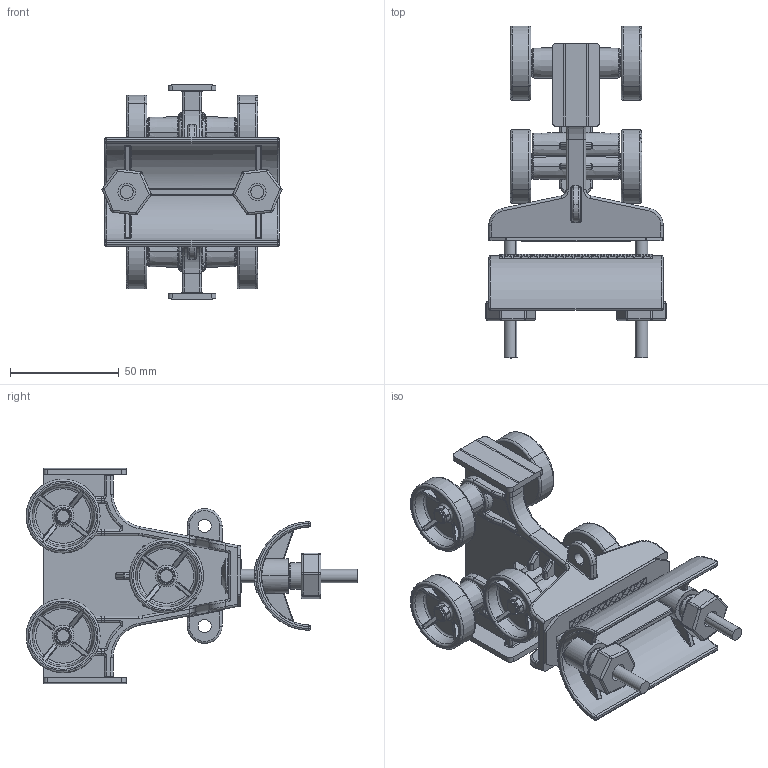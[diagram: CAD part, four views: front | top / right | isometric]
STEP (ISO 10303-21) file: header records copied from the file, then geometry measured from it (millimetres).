
FILE_DESCRIPTION (( 'STEP AP203' ), '1' );
FILE_NAME ('萇擢苤陬.STEP', '2022-02-10T02:41:10', ( '' ), ( '' ), 'SwSTEP 2.0', 'SolidWorks 2017', '' );
FILE_SCHEMA (( 'CONFIG_CONTROL_DESIGN' ));
Length unit declared in the file: millimetre
Products named in the file (8): 电缆小车下支撑(网纹); 萇擢苤陬陬謫粣; 萇擢苤陬; 萇擢苤陬陬謫; 萇擢苤陬滅賑菜; 萇擢苤陬翋极; cup head square neck bolts grade c gb_GB_FASTENER_BOLT_CHSNBLH M6X60-N; 电缆小车塑料螺母
Assembly tree (16 placements, depth 2):
  萇擢苤陬
    萇擢苤陬翋极
    萇擢苤陬陬謫粣  x3
    萇擢苤陬陬謫  x6
    萇擢苤陬滅賑菜
    电缆小车下支撑(网纹)
    cup head square neck bolts grade c gb_GB_FASTENER_BOLT_CHSNBLH M6X60-N  x2
    电缆小车塑料螺母  x2
Bounding box: 82.66 x 152.4 x 99 mm (x, y, z)
Volume: 132138.2 mm3; surface area: 86781.7 mm2
Topology: 16 solids, 16 shells, 3303 faces, 7774 edges, 4472 vertices
Faces by surface type: plane 1071, bspline 917, cylinder 891, torus 254, cone 98, sphere 72
Entity records: 98684 total; most frequent: CARTESIAN_POINT 51390, ORIENTED_EDGE 10866, DIRECTION 8104, EDGE_CURVE 5433, VERTEX_POINT 3085, AXIS2_PLACEMENT_3D 2868, EDGE_LOOP 2426, ADVANCED_FACE 2380
